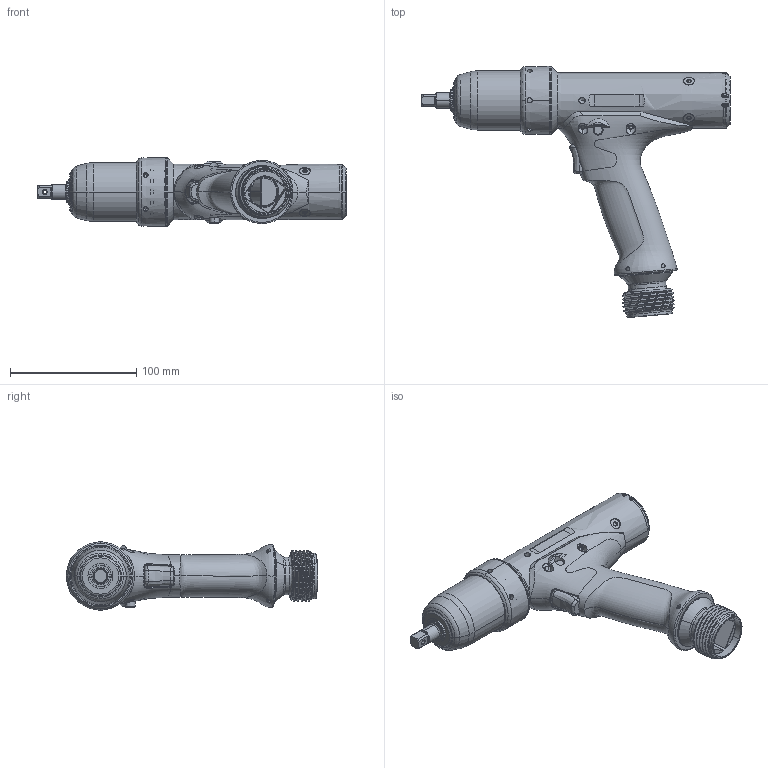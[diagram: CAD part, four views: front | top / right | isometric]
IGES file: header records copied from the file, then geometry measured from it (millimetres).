
Start section:  PTC IGES file: 6151660220.igs
Global section: file name: 6151660220.igs; native system: Creo Parametric by PTC Inc.; preprocessor: 2016050; author: greextsd; organization: Unknown; date: 20160613.105319; units: millimetre
Bounding box: 244.4 x 199.15 x 54 mm (x, y, z)
Volume: 226767 mm3; surface area: 127774.8 mm2
Topology: 4 solids, 4 shells, 2371 faces, 6111 edges, 3808 vertices
Faces by surface type: revolution 1253, bspline 919, extrusion 199
